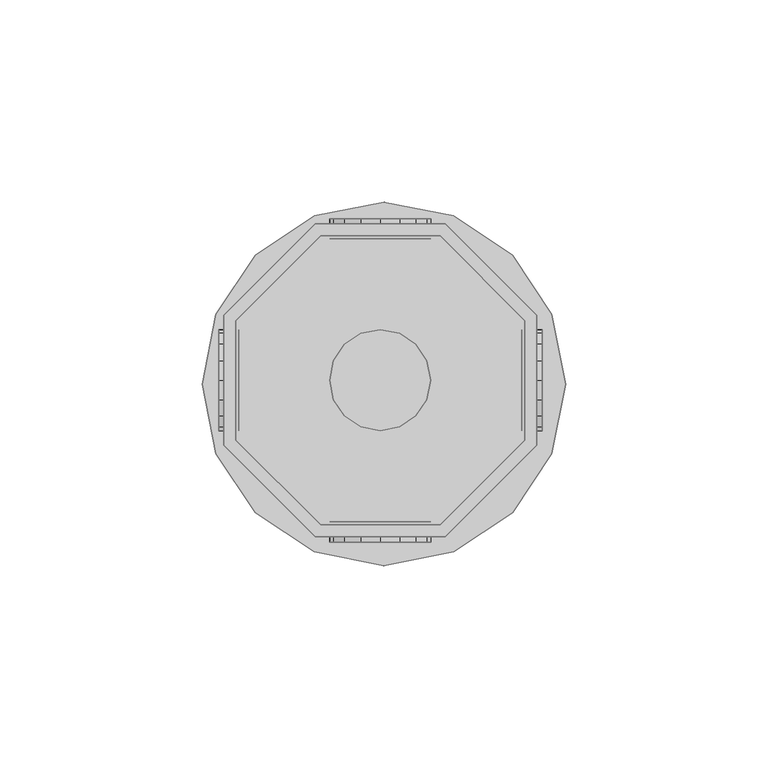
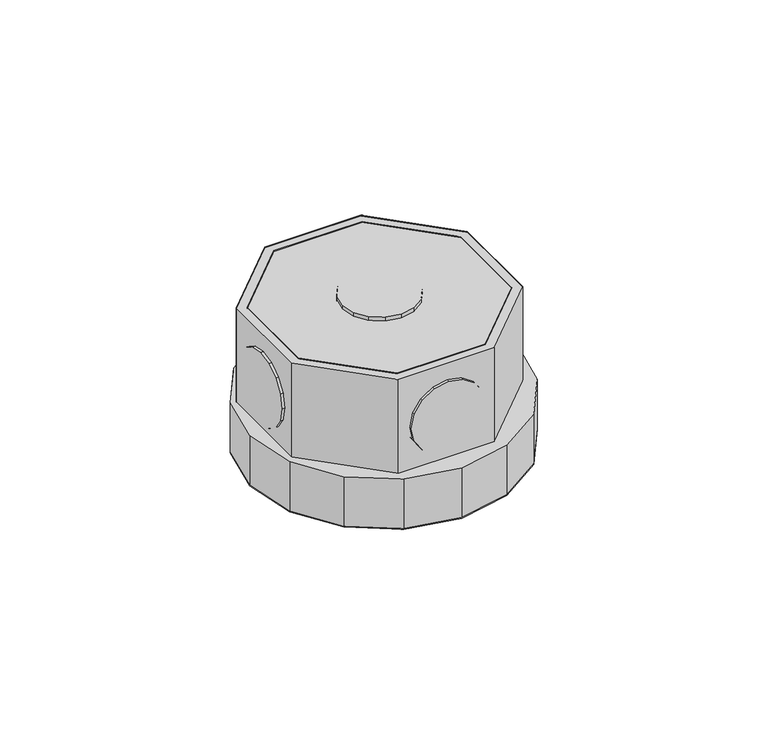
"""IFC4 building model written with IfcOpenShell, lengths in millimetres: light fixture geometry,  213772 :  213772."""

from ifc_helpers import new_model, si_unit, origin, place, context, project, spatial, triangles, source, transform, mapped, element, save


def light_fixture_27714f82(model_context):
    return source(origin(), model_context, "Body", "Tessellation", [
        triangles([(13460.0005096, 25352.9989929, 2924.5999741), (13430.3999908, 25352.9989929, 2975.400071), (13430.3999908, 25352.9989929, 2924.5999741), (13460.0005096, 25352.9989929, 2975.400071), (13461.2004364, 25278.4988892, 2924.5999741), (13429.1000702, 25278.4988892, 2975.400071), (13429.1000702, 25278.4988892, 2924.5999741), (13461.2004364, 25278.4988892, 2975.400071), (13409.4001099, 25332.0002747, 2975.400071), (13409.4001099, 25332.0002747, 2924.5999741), (13483.9002136, 25301.1998291, 2924.5999741), (13483.9002136, 25301.1998291, 2975.400071), (13409.4001099, 25302.3997559, 2975.400071), (13409.4001099, 25302.3997559, 2924.5999741), (13483.9002136, 25333.3001953, 2924.5999741), (13483.9002136, 25333.3001953, 2975.400071), (13430.3999908, 25281.5010315, 2975.400071), (13430.3999908, 25281.5010315, 2924.5999741), (13461.2004364, 25356.0011353, 2924.5999741), (13461.2004364, 25356.0011353, 2975.400071), (13460.0005096, 25281.5010315, 2924.5999741), (13460.0005096, 25281.5010315, 2975.400071), (13429.1000702, 25356.0011353, 2975.400071), (13429.1000702, 25356.0011353, 2924.5999741), (13480.9003967, 25302.3997559, 2924.5999741), (13480.9003967, 25302.3997559, 2975.400071), (13406.400293, 25333.3001953, 2975.400071), (13406.400293, 25333.3001953, 2924.5999741), (13406.400293, 25301.1998291, 2975.400071), (13480.9003967, 25332.0002747, 2975.400071), (13480.9003967, 25332.0002747, 2924.5999741), (13406.400293, 25301.1998291, 2924.5999741), (13409.4001099, 25302.3997559, 2972.3999634), (13430.3999908, 25281.5010315, 2972.3999634), (13460.0005096, 25281.5010315, 2972.3999634), (13480.9003967, 25302.3997559, 2972.3999634), (13480.9003967, 25332.0002747, 2972.3999634), (13460.0005096, 25352.9989929, 2972.3999634), (13430.3999908, 25352.9989929, 2972.3999634), (13409.4001099, 25332.0002747, 2972.3999634), (13406.400293, 25333.3001953, 2942.4000504), (13429.1000702, 25356.0011353, 2942.4000504), (13461.2004364, 25356.0011353, 2942.4000504), (13483.9002136, 25333.3001953, 2942.4000504), (13483.9002136, 25301.1998291, 2942.4000504), (13461.2004364, 25278.4988892, 2942.4000504), (13429.1000702, 25278.4988892, 2942.4000504), (13406.400293, 25301.1998291, 2942.4000504), (13428.8000885, 25274.799115, 2942.4000504), (13404.5004089, 25299.0999573, 2942.4000504), (13414.1998169, 25284.5008484, 2942.4000504), (13401.0994537, 25316.2989075, 2942.4000504), (13404.5004089, 25333.600177, 2942.4000504), (13414.1998169, 25348.1992859, 2942.4000504), (13428.8000885, 25357.9010193, 2942.4000504), (13446.1001953, 25361.3008118, 2942.4000504), (13463.3003082, 25357.9010193, 2942.4000504), (13487.5999878, 25333.600177, 2942.4000504), (13477.9005798, 25348.1992859, 2942.4000504), (13446.1001953, 25271.2993286, 2942.4000504), (13463.3003082, 25274.799115, 2942.4000504), (13477.9005798, 25284.5008484, 2942.4000504), (13487.5999878, 25299.0999573, 2942.4000504), (13491.0997742, 25316.2989075, 2942.4000504), (13404.5004089, 25299.0999573, 2924.5999741), (13428.8000885, 25274.799115, 2924.5999741), (13414.1998169, 25284.5008484, 2924.5999741), (13401.0994537, 25316.2989075, 2924.5999741), (13404.5004089, 25333.600177, 2924.5999741), (13414.1998169, 25348.1992859, 2924.5999741), (13428.8000885, 25357.9010193, 2924.5999741), (13446.1001953, 25361.3008118, 2924.5999741), (13463.3003082, 25357.9010193, 2924.5999741), (13487.5999878, 25333.600177, 2924.5999741), (13477.9005798, 25348.1992859, 2924.5999741), (13446.1001953, 25271.2993286, 2924.5999741), (13463.3003082, 25274.799115, 2924.5999741), (13477.9005798, 25284.5008484, 2924.5999741), (13487.5999878, 25299.0999573, 2924.5999741), (13491.0997742, 25316.2989075, 2924.5999741), (13433.5997955, 25357.201062, 2952.6000092), (13440.4005432, 25357.201062, 2945.9001274), (13436.2996307, 25357.201062, 2948.5999626), (13432.6998505, 25357.201062, 2957.4000069), (13445.2002502, 25357.201062, 2944.8998978), (13433.5997955, 25357.201062, 2962.2000046), (13449.9999573, 25357.201062, 2945.9001274), (13436.2996307, 25357.201062, 2966.2000511), (13453.9997131, 25357.201062, 2948.5999626), (13440.4005432, 25357.201062, 2968.8998863), (13456.6995483, 25357.201062, 2952.6000092), (13445.2002502, 25357.201062, 2969.900116), (13457.6994873, 25357.201062, 2957.4000069), (13449.9999573, 25357.201062, 2968.8998863), (13456.6995483, 25357.201062, 2962.2000046), (13453.9997131, 25357.201062, 2966.2000511), (13440.4005432, 25352.1990417, 2945.9001274), (13433.5997955, 25352.1990417, 2952.6000092), (13436.2996307, 25352.1990417, 2948.5999626), (13445.2002502, 25352.1990417, 2944.8998978), (13432.6998505, 25352.1990417, 2957.4000069), (13449.9999573, 25352.1990417, 2945.9001274), (13433.5997955, 25352.1990417, 2962.2000046), (13453.9997131, 25352.1990417, 2948.5999626), (13436.2996307, 25352.1990417, 2966.2000511), (13440.4005432, 25352.1990417, 2968.8998863), (13456.6995483, 25352.1990417, 2952.6000092), (13445.2002502, 25352.1990417, 2969.900116), (13457.6994873, 25352.1990417, 2957.4000069), (13449.9999573, 25352.1990417, 2968.8998863), (13456.6995483, 25352.1990417, 2962.2000046), (13453.9997131, 25352.1990417, 2966.2000511), (13433.5997955, 25282.2009888, 2952.6000092), (13440.4005432, 25282.2009888, 2945.9001274), (13436.2996307, 25282.2009888, 2948.5999626), (13432.6998505, 25282.2009888, 2957.4000069), (13445.2002502, 25282.2009888, 2944.8998978), (13433.5997955, 25282.2009888, 2962.2000046), (13449.9999573, 25282.2009888, 2945.9001274), (13436.2996307, 25282.2009888, 2966.2000511), (13453.9997131, 25282.2009888, 2948.5999626), (13440.4005432, 25282.2009888, 2968.8998863), (13456.6995483, 25282.2009888, 2952.6000092), (13445.2002502, 25282.2009888, 2969.900116), (13457.6994873, 25282.2009888, 2957.4000069), (13449.9999573, 25282.2009888, 2968.8998863), (13456.6995483, 25282.2009888, 2962.2000046), (13453.9997131, 25282.2009888, 2966.2000511), (13440.4005432, 25277.1989685, 2945.9001274), (13433.5997955, 25277.1989685, 2952.6000092), (13436.2996307, 25277.1989685, 2948.5999626), (13445.2002502, 25277.1989685, 2944.8998978), (13432.6998505, 25277.1989685, 2957.4000069), (13449.9999573, 25277.1989685, 2945.9001274), (13433.5997955, 25277.1989685, 2962.2000046), (13453.9997131, 25277.1989685, 2948.5999626), (13436.2996307, 25277.1989685, 2966.2000511), (13440.4005432, 25277.1989685, 2968.8998863), (13456.6995483, 25277.1989685, 2952.6000092), (13445.2002502, 25277.1989685, 2969.900116), (13457.6994873, 25277.1989685, 2957.4000069), (13449.9999573, 25277.1989685, 2968.8998863), (13456.6995483, 25277.1989685, 2962.2000046), (13453.9997131, 25277.1989685, 2966.2000511), (13410.200061, 25312.3991455, 2945.9001274), (13410.200061, 25305.6995544, 2952.6000092), (13410.200061, 25308.3993896, 2948.5999626), (13410.200061, 25317.1988525, 2944.8998978), (13410.200061, 25304.6996155, 2957.4000069), (13410.200061, 25322.000885, 2945.9001274), (13410.200061, 25305.6995544, 2962.2000046), (13410.200061, 25326.1006348, 2948.5999626), (13410.200061, 25308.3993896, 2966.2000511), (13410.200061, 25312.3991455, 2968.8998863), (13410.200061, 25328.80047, 2952.6000092), (13410.200061, 25317.1988525, 2969.900116), (13410.200061, 25329.700415, 2957.4000069), (13410.200061, 25322.000885, 2968.8998863), (13410.200061, 25328.80047, 2962.2000046), (13410.200061, 25326.1006348, 2966.2000511), (13405.2003662, 25305.6995544, 2952.6000092), (13405.2003662, 25312.3991455, 2945.9001274), (13405.2003662, 25308.3993896, 2948.5999626), (13405.2003662, 25304.6996155, 2957.4000069), (13405.2003662, 25317.1988525, 2944.8998978), (13405.2003662, 25305.6995544, 2962.2000046), (13405.2003662, 25322.000885, 2945.9001274), (13405.2003662, 25308.3993896, 2966.2000511), (13405.2003662, 25326.1006348, 2948.5999626), (13405.2003662, 25312.3991455, 2968.8998863), (13405.2003662, 25328.80047, 2952.6000092), (13405.2003662, 25317.1988525, 2969.900116), (13405.2003662, 25329.700415, 2957.4000069), (13405.2003662, 25322.000885, 2968.8998863), (13405.2003662, 25328.80047, 2962.2000046), (13405.2003662, 25326.1006348, 2966.2000511), (13485.2001343, 25312.3991455, 2945.9001274), (13485.2001343, 25305.6995544, 2952.6000092), (13485.2001343, 25308.3993896, 2948.5999626), (13485.2001343, 25317.1988525, 2944.8998978), (13485.2001343, 25304.6996155, 2957.4000069), (13485.2001343, 25322.000885, 2945.9001274), (13485.2001343, 25305.6995544, 2962.2000046), (13485.2001343, 25326.1006348, 2948.5999626), (13485.2001343, 25308.3993896, 2966.2000511), (13485.2001343, 25312.3991455, 2968.8998863), (13485.2001343, 25328.80047, 2952.6000092), (13485.2001343, 25317.1988525, 2969.900116), (13485.2001343, 25329.700415, 2957.4000069), (13485.2001343, 25322.000885, 2968.8998863), (13485.2001343, 25328.80047, 2962.2000046), (13485.2001343, 25326.1006348, 2966.2000511), (13480.2004395, 25305.6995544, 2952.6000092), (13480.2004395, 25312.3991455, 2945.9001274), (13480.2004395, 25308.3993896, 2948.5999626), (13480.2004395, 25304.6996155, 2957.4000069), (13480.2004395, 25317.1988525, 2944.8998978), (13480.2004395, 25305.6995544, 2962.2000046), (13480.2004395, 25322.000885, 2945.9001274), (13480.2004395, 25308.3993896, 2966.2000511), (13480.2004395, 25326.1006348, 2948.5999626), (13480.2004395, 25312.3991455, 2968.8998863), (13480.2004395, 25328.80047, 2952.6000092), (13480.2004395, 25317.1988525, 2969.900116), (13480.2004395, 25329.700415, 2957.4000069), (13480.2004395, 25322.000885, 2968.8998863), (13480.2004395, 25328.80047, 2962.2000046), (13480.2004395, 25326.1006348, 2966.2000511), (13440.4005432, 25305.6995544, 2976.9999733), (13433.5997955, 25312.3991455, 2976.9999733), (13436.2996307, 25308.3993896, 2976.9999733), (13432.6998505, 25317.1988525, 2976.9999733), (13445.2002502, 25304.6996155, 2976.9999733), (13433.5997955, 25322.000885, 2976.9999733), (13449.9999573, 25305.6995544, 2976.9999733), (13436.2996307, 25326.1006348, 2976.9999733), (13453.9997131, 25308.3993896, 2976.9999733), (13440.4005432, 25328.80047, 2976.9999733), (13456.6995483, 25312.3991455, 2976.9999733), (13445.2002502, 25329.700415, 2976.9999733), (13457.6994873, 25317.1988525, 2976.9999733), (13449.9999573, 25328.80047, 2976.9999733), (13456.6995483, 25322.000885, 2976.9999733), (13453.9997131, 25326.1006348, 2976.9999733), (13433.5997955, 25312.3991455, 2971.9999878), (13440.4005432, 25305.6995544, 2971.9999878), (13436.2996307, 25308.3993896, 2971.9999878), (13432.6998505, 25317.1988525, 2971.9999878), (13445.2002502, 25304.6996155, 2971.9999878), (13433.5997955, 25322.000885, 2971.9999878), (13449.9999573, 25305.6995544, 2971.9999878), (13436.2996307, 25326.1006348, 2971.9999878), (13453.9997131, 25308.3993896, 2971.9999878), (13440.4005432, 25328.80047, 2971.9999878), (13456.6995483, 25312.3991455, 2971.9999878), (13445.2002502, 25329.700415, 2971.9999878), (13457.6994873, 25317.1988525, 2971.9999878), (13449.9999573, 25328.80047, 2971.9999878), (13456.6995483, 25322.000885, 2971.9999878), (13453.9997131, 25326.1006348, 2971.9999878)], [[1, 2, 3], [2, 1, 4], [5, 6, 7], [6, 5, 8], [3, 9, 10], [9, 3, 2], [11, 8, 5], [8, 11, 12], [10, 13, 14], [13, 10, 9], [15, 12, 11], [12, 15, 16], [14, 17, 18], [17, 14, 13], [19, 16, 15], [16, 19, 20], [17, 21, 18], [21, 17, 22], [23, 19, 24], [19, 23, 20], [22, 25, 21], [25, 22, 26], [27, 24, 28], [24, 27, 23], [6, 13, 29], [29, 13, 27], [27, 13, 9], [27, 9, 23], [23, 9, 2], [23, 2, 4], [23, 4, 20], [20, 4, 30], [8, 17, 6], [6, 17, 13], [17, 8, 22], [12, 22, 8], [22, 12, 26], [30, 26, 12], [16, 30, 12], [20, 30, 16], [30, 1, 31], [1, 30, 4], [6, 32, 7], [32, 6, 29], [32, 14, 7], [28, 14, 32], [14, 28, 10], [24, 10, 28], [10, 24, 3], [1, 3, 24], [19, 1, 24], [31, 1, 19], [7, 18, 5], [14, 18, 7], [5, 18, 21], [5, 21, 11], [11, 21, 25], [11, 25, 31], [11, 31, 15], [15, 31, 19], [26, 31, 25], [31, 26, 30], [29, 28, 32], [28, 29, 27], [17, 33, 34], [33, 17, 13], [35, 17, 34], [17, 35, 22], [36, 22, 35], [22, 36, 26], [37, 26, 36], [26, 37, 30], [38, 30, 37], [30, 38, 4], [2, 38, 39], [38, 2, 4], [17, 9, 13], [9, 17, 22], [9, 22, 2], [2, 22, 26], [2, 26, 4], [4, 26, 30], [13, 40, 33], [40, 13, 9], [40, 34, 33], [35, 34, 40], [35, 40, 39], [35, 39, 36], [36, 39, 38], [36, 38, 37], [9, 39, 40], [39, 9, 2], [24, 41, 28], [41, 24, 42], [19, 42, 24], [42, 19, 43], [44, 19, 15], [19, 44, 43], [45, 15, 11], [15, 45, 44], [46, 11, 5], [11, 46, 45], [47, 5, 7], [5, 47, 46], [32, 47, 7], [47, 32, 48], [28, 48, 32], [48, 28, 41], [49, 50, 51], [48, 50, 49], [50, 48, 52], [41, 52, 48], [52, 41, 53], [53, 41, 54], [42, 54, 41], [54, 42, 55], [55, 42, 43], [55, 43, 56], [56, 43, 57], [57, 43, 44], [57, 44, 58], [57, 58, 59], [47, 49, 60], [49, 47, 48], [47, 60, 46], [61, 46, 60], [46, 61, 62], [46, 62, 45], [45, 62, 63], [44, 45, 63], [44, 63, 64], [44, 64, 58], [65, 66, 67], [66, 65, 32], [68, 32, 65], [32, 68, 28], [28, 68, 69], [70, 28, 69], [28, 70, 24], [71, 24, 70], [19, 24, 71], [19, 71, 72], [73, 19, 72], [19, 73, 15], [74, 15, 73], [74, 73, 75], [76, 66, 7], [32, 7, 66], [5, 76, 7], [76, 5, 77], [77, 5, 78], [11, 78, 5], [78, 11, 79], [79, 11, 15], [79, 15, 80], [80, 15, 74], [57, 75, 73], [75, 57, 59], [56, 73, 72], [73, 56, 57], [55, 72, 71], [72, 55, 56], [54, 71, 70], [71, 54, 55], [53, 70, 69], [70, 53, 54], [52, 69, 68], [69, 52, 53], [50, 68, 65], [68, 50, 52], [51, 65, 67], [65, 51, 50], [66, 51, 67], [51, 66, 49], [76, 49, 66], [49, 76, 60], [77, 60, 76], [60, 77, 61], [78, 61, 77], [61, 78, 62], [79, 62, 78], [62, 79, 63], [80, 63, 79], [63, 80, 64], [75, 58, 74], [58, 75, 59], [74, 64, 80], [64, 74, 58], [81, 82, 83], [82, 81, 84], [85, 82, 84], [85, 84, 86], [87, 85, 86], [87, 86, 88], [87, 88, 89], [89, 88, 90], [89, 90, 91], [91, 90, 92], [91, 92, 93], [93, 92, 94], [93, 94, 95], [95, 94, 96], [97, 98, 99], [98, 97, 100], [101, 98, 100], [101, 100, 102], [103, 101, 102], [103, 102, 104], [103, 104, 105], [105, 104, 106], [106, 104, 107], [106, 107, 108], [108, 107, 109], [108, 109, 110], [110, 109, 111], [110, 111, 112], [87, 104, 102], [104, 87, 89], [85, 102, 100], [102, 85, 87], [82, 100, 97], [100, 82, 85], [83, 97, 99], [97, 83, 82], [98, 83, 99], [83, 98, 81], [101, 81, 98], [81, 101, 84], [103, 84, 101], [84, 103, 86], [105, 86, 103], [86, 105, 88], [106, 88, 105], [88, 106, 90], [108, 90, 106], [90, 108, 92], [110, 92, 108], [92, 110, 94], [112, 94, 110], [94, 112, 96], [95, 112, 111], [112, 95, 96], [93, 111, 109], [111, 93, 95], [89, 107, 104], [107, 89, 91], [91, 109, 107], [109, 91, 93], [113, 114, 115], [114, 113, 116], [117, 114, 116], [117, 116, 118], [119, 117, 118], [119, 118, 120], [119, 120, 121], [121, 120, 122], [121, 122, 123], [123, 122, 124], [123, 124, 125], [125, 124, 126], [125, 126, 127], [127, 126, 128], [129, 130, 131], [130, 129, 132], [133, 130, 132], [133, 132, 134], [135, 133, 134], [135, 134, 136], [135, 136, 137], [137, 136, 138], [138, 136, 139], [138, 139, 140], [140, 139, 141], [140, 141, 142], [142, 141, 143], [142, 143, 144], [119, 136, 134], [136, 119, 121], [117, 134, 132], [134, 117, 119], [114, 132, 129], [132, 114, 117], [115, 129, 131], [129, 115, 114], [130, 115, 131], [115, 130, 113], [133, 113, 130], [113, 133, 116], [135, 116, 133], [116, 135, 118], [137, 118, 135], [118, 137, 120], [138, 120, 137], [120, 138, 122], [140, 122, 138], [122, 140, 124], [142, 124, 140], [124, 142, 126], [144, 126, 142], [126, 144, 128], [127, 144, 143], [144, 127, 128], [125, 143, 141], [143, 125, 127], [121, 139, 136], [139, 121, 123], [123, 141, 139], [141, 123, 125], [145, 146, 147], [146, 145, 148], [149, 146, 148], [149, 148, 150], [151, 149, 150], [151, 150, 152], [151, 152, 153], [153, 152, 154], [154, 152, 155], [154, 155, 156], [156, 155, 157], [156, 157, 158], [158, 157, 159], [158, 159, 160], [161, 162, 163], [162, 161, 164], [165, 162, 164], [165, 164, 166], [167, 165, 166], [167, 166, 168], [169, 167, 168], [169, 168, 170], [169, 170, 171], [171, 170, 172], [171, 172, 173], [173, 172, 174], [173, 174, 175], [175, 174, 176], [158, 176, 174], [176, 158, 160], [156, 174, 172], [174, 156, 158], [154, 172, 170], [172, 154, 156], [153, 170, 168], [170, 153, 154], [151, 168, 166], [168, 151, 153], [149, 166, 164], [166, 149, 151], [146, 164, 161], [164, 146, 149], [147, 161, 163], [161, 147, 146], [162, 147, 163], [147, 162, 145], [165, 145, 162], [145, 165, 148], [167, 148, 165], [148, 167, 150], [169, 150, 167], [150, 169, 152], [171, 152, 169], [152, 171, 155], [173, 155, 171], [155, 173, 157], [176, 159, 175], [159, 176, 160], [175, 157, 173], [157, 175, 159], [177, 178, 179], [178, 177, 180], [181, 178, 180], [181, 180, 182], [183, 181, 182], [183, 182, 184], [183, 184, 185], [185, 184, 186], [186, 184, 187], [186, 187, 188], [188, 187, 189], [188, 189, 190], [190, 189, 191], [190, 191, 192], [193, 194, 195], [194, 193, 196], [197, 194, 196], [197, 196, 198], [199, 197, 198], [199, 198, 200], [201, 199, 200], [201, 200, 202], [201, 202, 203], [203, 202, 204], [203, 204, 205], [205, 204, 206], [205, 206, 207], [207, 206, 208], [190, 208, 206], [208, 190, 192], [188, 206, 204], [206, 188, 190], [186, 204, 202], [204, 186, 188], [185, 202, 200], [202, 185, 186], [183, 200, 198], [200, 183, 185], [181, 198, 196], [198, 181, 183], [178, 196, 193], [196, 178, 181], [179, 193, 195], [193, 179, 178], [194, 179, 195], [179, 194, 177], [197, 177, 194], [177, 197, 180], [199, 180, 197], [180, 199, 182], [201, 182, 199], [182, 201, 184], [203, 184, 201], [184, 203, 187], [205, 187, 203], [187, 205, 189], [208, 191, 207], [191, 208, 192], [207, 189, 205], [189, 207, 191], [209, 210, 211], [212, 210, 209], [212, 209, 213], [214, 212, 213], [214, 213, 215], [216, 214, 215], [216, 215, 217], [216, 217, 218], [218, 217, 219], [218, 219, 220], [220, 219, 221], [220, 221, 222], [222, 221, 223], [222, 223, 224], [225, 226, 227], [226, 225, 228], [229, 226, 228], [229, 228, 230], [231, 229, 230], [231, 230, 232], [231, 232, 233], [233, 232, 234], [233, 234, 235], [235, 234, 236], [235, 236, 237], [237, 236, 238], [237, 238, 239], [239, 238, 240], [222, 240, 238], [240, 222, 224], [220, 238, 236], [238, 220, 222], [218, 236, 234], [236, 218, 220], [216, 234, 232], [234, 216, 218], [214, 232, 230], [232, 214, 216], [212, 230, 228], [230, 212, 214], [210, 228, 225], [228, 210, 212], [211, 225, 227], [225, 211, 210], [226, 211, 227], [211, 226, 209], [229, 209, 226], [209, 229, 213], [231, 213, 229], [213, 231, 215], [233, 215, 231], [215, 233, 217], [235, 217, 233], [217, 235, 219], [237, 219, 235], [219, 237, 221], [240, 223, 239], [223, 240, 224], [239, 221, 237], [221, 239, 223]], closed=False),
    ])


if __name__ == "__main__":
    model = new_model("IFC4")
    model_context = context("Model", 3, world=origin())
    ifc_project = project(units=[si_unit("LENGTHUNIT", "METRE", prefix="MILLI")], contexts=[model_context])
    site = spatial("IfcSite", under=ifc_project)
    building = spatial("IfcBuilding", under=site)
    placement = place(None, origin())
    light_fixture_shape = light_fixture_27714f82(model_context)
    element("IfcLightFixture", 1, ObjectType=" 213772 :  213772", at=placement, inside=building, context=model_context, shape_type="MappedRepresentation", body=[
        mapped(light_fixture_shape, transform((0.0, 0.0, 0.0), x_axis=(1.0, 0.0, 0.0), y_axis=(0.0, 1.0, 0.0), z_axis=(0.0, 0.0, 1.0))),
    ])
    save(model, "model.ifc")
